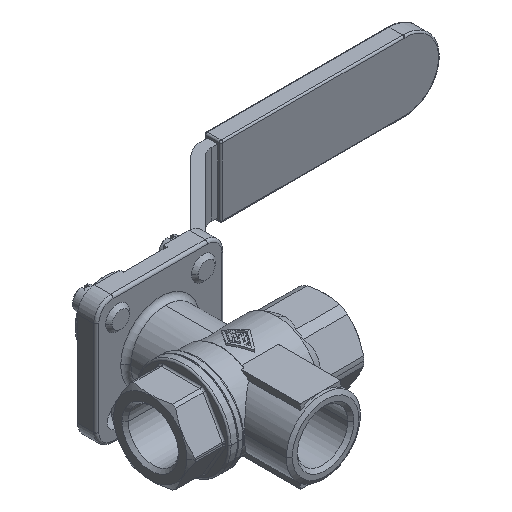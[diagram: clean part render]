
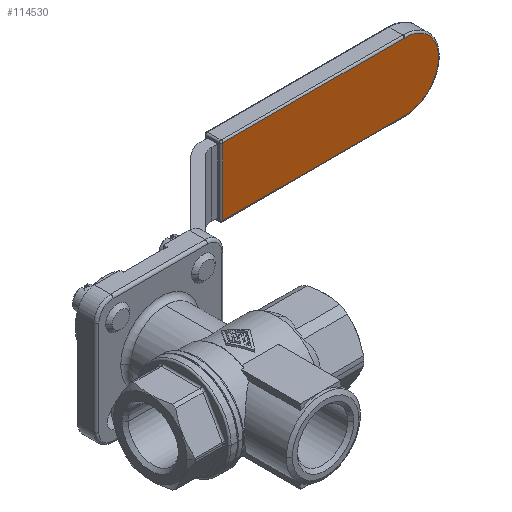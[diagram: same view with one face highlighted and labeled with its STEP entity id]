
A CAD part, isometric view. The second image highlights one B-rep face of the part: STEP entity #114530.
In plain terms, the highlighted planar face has unit normal (0, -1, 0).
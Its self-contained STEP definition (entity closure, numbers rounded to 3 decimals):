
#114090=CARTESIAN_POINT('',(-114.,55.,0.));
#114100=DIRECTION('',(0.,-1.,0.));
#114110=DIRECTION('',(1.,0.,0.));
#114120=AXIS2_PLACEMENT_3D('',#114090,#114100,#114110);
#114130=PLANE('',#114120);
#114140=CARTESIAN_POINT('',(0.,55.,-10.))
;
#114150=DIRECTION('',(1.,0.,0.));
#114160=VECTOR('',#114150,1.);
#114170=LINE('',#114140,#114160);
#114180=CARTESIAN_POINT('',(-104.291,55.,-10.));
#114190=VERTEX_POINT('',#114180);
#114200=CARTESIAN_POINT('',(-50.5,55.,-10.));
#114210=VERTEX_POINT('',#114200);
#114220=EDGE_CURVE('',#114190,#114210,#114170,.T.);
#114230=ORIENTED_EDGE('',*,*,#114220,.T.);
#114240=CARTESIAN_POINT('',(-104.5,55.,0.
));
#114250=DIRECTION('',(0.,-1.,0.));
#114260=DIRECTION('',(0.,0.,-1.));
#114270=AXIS2_PLACEMENT_3D('',#114240,#114250,#114260);
#114280=CIRCLE('',#114270,10.002);
#114290=CARTESIAN_POINT('',(-104.5,55.,-10.002));
#114300=VERTEX_POINT('',#114290);
#114310=EDGE_CURVE('',#114300,#114190,#114280,.T.);
#114320=ORIENTED_EDGE('',*,*,#114310,.T.);
#114330=CARTESIAN_POINT('',(-104.709,55.,10.));
#114340=VERTEX_POINT('',#114330);
#114350=EDGE_CURVE('',#114340,#114300,#114280,.T.);
#114360=ORIENTED_EDGE('',*,*,#114350,.T.);
#114370=CARTESIAN_POINT('',(0.,55.,10.));
#114380=DIRECTION('',(-1.,0.,0.));
#114390=VECTOR('',#114380,1.);
#114400=LINE('',#114370,#114390);
#114410=CARTESIAN_POINT('',(-50.5,55.,10.));
#114420=VERTEX_POINT('',#114410);
#114430=EDGE_CURVE('',#114420,#114340,#114400,.T.);
#114440=ORIENTED_EDGE('',*,*,#114430,.T.);
#114450=CARTESIAN_POINT('',(-50.5,55.,0.));
#114460=DIRECTION('',(0.,0.,1.));
#114470=VECTOR('',#114460,1.);
#114480=LINE('',#114450,#114470);
#114490=EDGE_CURVE('',#114210,#114420,#114480,.T.);
#114500=ORIENTED_EDGE('',*,*,#114490,.T.);
#114510=EDGE_LOOP('',(#114500,#114440,#114360,#114320,#114230));
#114520=FACE_OUTER_BOUND('',#114510,.T.);
#114530=ADVANCED_FACE('',(#114520),#114130,.T.);
